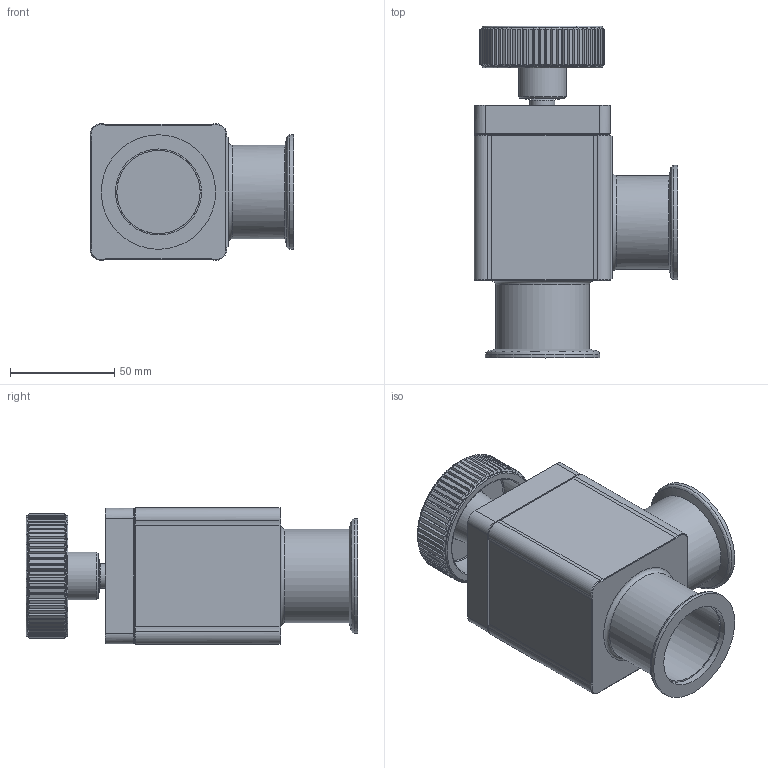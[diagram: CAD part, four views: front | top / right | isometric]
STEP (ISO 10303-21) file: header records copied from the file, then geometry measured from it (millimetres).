
FILE_DESCRIPTION((''),'2;1');
FILE_NAME('O:\MT\MT\Systeme\Cad\Datenexporte\www_vat_ch\246517.stp','2004-06-25T09:31:11',('User'),('SDRC'),'I-DEAS Master Series 9','UNIX','Yes');
FILE_SCHEMA(('CONFIG_CONTROL_DESIGN'));
Length unit declared in the file: millimetre
Assembly tree (10 placements, depth 0):
Bounding box: 97.8 x 159.3 x 65.6 mm (x, y, z)
Volume: 250410.5 mm3; surface area: 100206.1 mm2
Topology: 18 solids, 18 shells, 686 faces, 1488 edges, 890 vertices
Faces by surface type: bspline 686
Entity records: 20846 total; most frequent: CARTESIAN_POINT 11794, ORIENTED_EDGE 2718, EDGE_CURVE 1359, VERTEX_POINT 788, EDGE_LOOP 687, FACE_OUTER_BOUND 629, ADVANCED_FACE 629, QUASI_UNIFORM_CURVE 563
